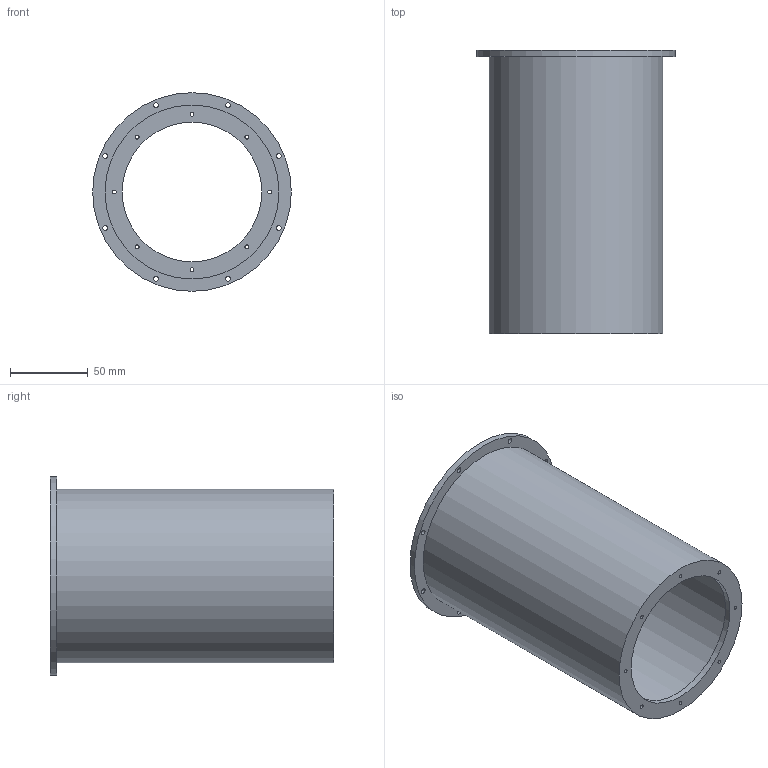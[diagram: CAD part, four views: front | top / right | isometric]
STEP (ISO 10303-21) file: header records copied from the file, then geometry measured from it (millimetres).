
FILE_DESCRIPTION(/* description */ (''),/* implementation_level */ '2;1');
FILE_NAME(/* name */ '4K shield.stp',/* time_stamp */ '2026-05-15T16:11:31+08:00',/* author */ ('32769'),/* organization */ (''),/* preprocessor_version */ 'ST-DEVELOPER v20',/* originating_system */ 'Autodesk Inventor 2025',/* authorisation */ '');
FILE_SCHEMA (('AUTOMOTIVE_DESIGN { 1 0 10303 214 3 1 1 }'));
Length unit declared in the file: millimetre
Products named in the file (1): 4K shield
Bounding box: 128 x 182.5 x 128 mm (x, y, z)
Volume: 118564 mm3; surface area: 140047.3 mm2
Topology: 1 solids, 1 shells, 24 faces, 69 edges, 51 vertices
Faces by surface type: cylinder 20, plane 4
Full cylindrical faces by diameter (mm): 2.459 x8, 3.2 x8, 90 x1, 109 x1, 112 x1, 128 x1
Entity records: 930 total; most frequent: DIRECTION 164, CARTESIAN_POINT 136, ORIENTED_EDGE 120, AXIS2_PLACEMENT_3D 72, EDGE_LOOP 60, EDGE_CURVE 60, CIRCLE 47, VERTEX_POINT 40
